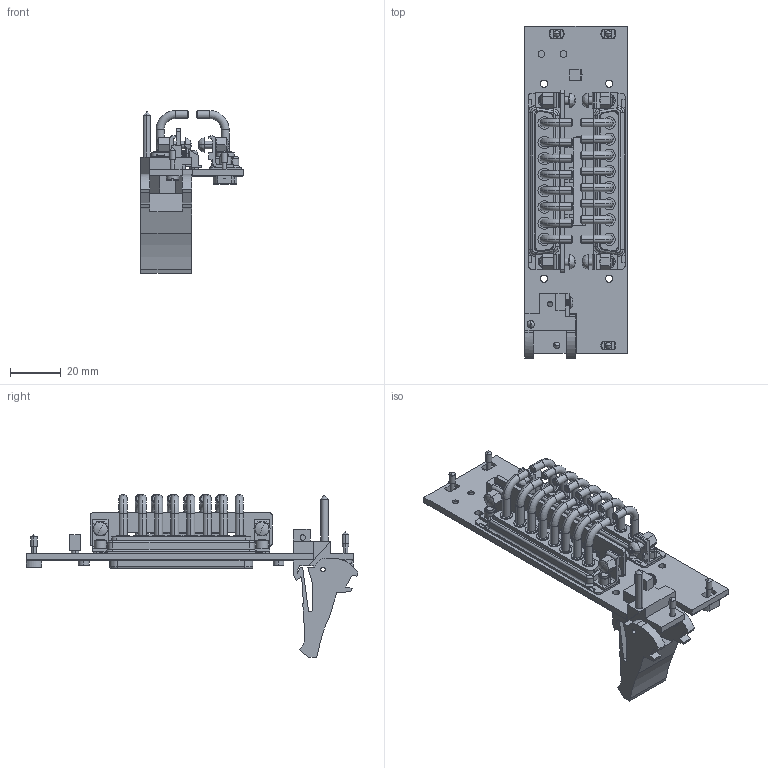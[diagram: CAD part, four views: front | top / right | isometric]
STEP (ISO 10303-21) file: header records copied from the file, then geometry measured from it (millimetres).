
FILE_DESCRIPTION((''),'2;1');
FILE_NAME('CU_PXI-2512','2009-11-02T',('jjorden'),(''),'PRO/ENGINEER BY PARAMETRIC TECHNOLOGY CORPORATION, 2006080','PRO/ENGINEER BY PARAMETRIC TECHNOLOGY CORPORATION, 2006080','');
FILE_SCHEMA(('CONFIG_CONTROL_DESIGN'));
Length unit declared in the file: inch
Products named in the file (1): CU_PXI-2512
Bounding box: 40.34 x 130.5 x 64.06 mm (x, y, z)
Volume: 33802.1 mm3; surface area: 34092.6 mm2
Topology: 3 solids, 7 shells, 2000 faces, 4860 edges, 2925 vertices
Faces by surface type: plane 990, cylinder 586, cone 170, bspline 113, torus 95, sphere 36, revolution 8, extrusion 2
Entity records: 61783 total; most frequent: CARTESIAN_POINT 15340, DIRECTION 9732, ORIENTED_EDGE 9488, EDGE_CURVE 4744, AXIS2_PLACEMENT_3D 3574, VERTEX_POINT 3077, VECTOR 2576, LINE 2574
